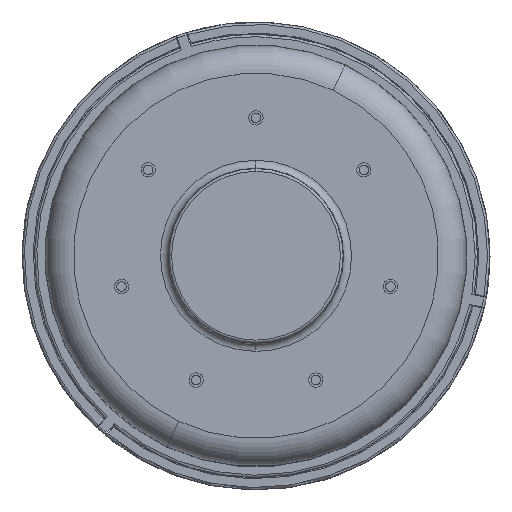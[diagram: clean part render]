
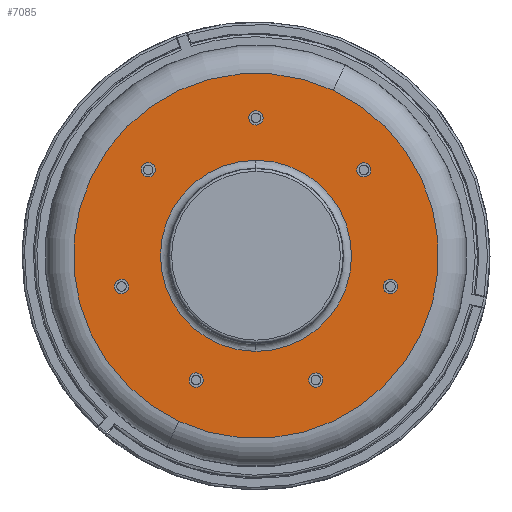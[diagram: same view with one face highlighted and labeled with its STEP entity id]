
A CAD part, top view. The second image highlights one B-rep face of the part: STEP entity #7085.
In plain terms, the highlighted planar face has unit normal (0, 0, 1).
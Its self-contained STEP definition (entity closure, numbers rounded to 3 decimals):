
#115=CARTESIAN_POINT('',(0.,0.,7.));
#116=DIRECTION('',(0.,0.,-1.));
#117=DIRECTION('',(0.423,0.906,0.));
#118=AXIS2_PLACEMENT_3D('',#115,#116,#117);
#124=CARTESIAN_POINT('',(0.,0.,7.));
#125=DIRECTION('',(0.,0.,-1.));
#126=DIRECTION('',(-0.423,-0.906,0.));
#127=AXIS2_PLACEMENT_3D('',#124,#125,#126);
#132=CARTESIAN_POINT('',(0.,0.,7.));
#133=DIRECTION('',(0.,0.,1.));
#134=DIRECTION('',(0.,1.,0.));
#135=AXIS2_PLACEMENT_3D('',#132,#133,#134);
#140=CARTESIAN_POINT('',(0.,0.,7.));
#141=DIRECTION('',(0.,0.,1.));
#142=DIRECTION('',(-0.015,-1.,0.));
#143=AXIS2_PLACEMENT_3D('',#140,#141,#142);
#148=CARTESIAN_POINT('',(0.,0.,7.));
#149=DIRECTION('',(0.,0.,1.));
#150=DIRECTION('',(0.,-1.,0.));
#151=AXIS2_PLACEMENT_3D('',#148,#149,#150);
#156=CARTESIAN_POINT('',(0.,0.,7.));
#157=DIRECTION('',(0.,0.,1.));
#158=DIRECTION('',(0.015,1.,0.));
#159=AXIS2_PLACEMENT_3D('',#156,#157,#158);
#164=CARTESIAN_POINT('',(16.866,-3.85,7.));
#165=DIRECTION('',(0.,0.,1.));
#166=DIRECTION('',(-1.,0.,0.));
#167=AXIS2_PLACEMENT_3D('',#164,#165,#166);
#172=CARTESIAN_POINT('',(16.866,-3.85,7.));
#173=DIRECTION('',(0.,0.,1.));
#174=DIRECTION('',(1.,0.,0.));
#175=AXIS2_PLACEMENT_3D('',#172,#173,#174);
#180=CARTESIAN_POINT('',(7.505,-15.587,7.));
#181=DIRECTION('',(0.,0.,1.));
#182=DIRECTION('',(-0.623,0.782,0.));
#183=AXIS2_PLACEMENT_3D('',#180,#181,#182);
#188=CARTESIAN_POINT('',(7.505,-15.587,7.));
#189=DIRECTION('',(0.,0.,1.));
#190=DIRECTION('',(0.623,-0.782,0.));
#191=AXIS2_PLACEMENT_3D('',#188,#189,#190);
#196=CARTESIAN_POINT('',(-7.507,-15.586,7.));
#197=DIRECTION('',(0.,0.,1.));
#198=DIRECTION('',(0.223,0.975,0.));
#199=AXIS2_PLACEMENT_3D('',#196,#197,#198);
#204=CARTESIAN_POINT('',(-7.507,-15.586,7.));
#205=DIRECTION('',(0.,0.,1.));
#206=DIRECTION('',(-0.223,-0.975,0.));
#207=AXIS2_PLACEMENT_3D('',#204,#205,#206);
#212=CARTESIAN_POINT('',(-16.866,-3.849,7.));
#213=DIRECTION('',(0.,0.,1.));
#214=DIRECTION('',(0.901,0.434,0.));
#215=AXIS2_PLACEMENT_3D('',#212,#213,#214);
#220=CARTESIAN_POINT('',(-16.866,-3.849,7.));
#221=DIRECTION('',(0.,0.,1.));
#222=DIRECTION('',(-0.901,-0.434,0.));
#223=AXIS2_PLACEMENT_3D('',#220,#221,#222);
#228=CARTESIAN_POINT('',(-13.525,10.787,7.));
#229=DIRECTION('',(0.,0.,1.));
#230=DIRECTION('',(0.901,-0.434,0.));
#231=AXIS2_PLACEMENT_3D('',#228,#229,#230);
#236=CARTESIAN_POINT('',(-13.525,10.787,7.));
#237=DIRECTION('',(0.,0.,1.));
#238=DIRECTION('',(-0.901,0.434,0.));
#239=AXIS2_PLACEMENT_3D('',#236,#237,#238);
#244=CARTESIAN_POINT('',(0.001,17.3,7.));
#245=DIRECTION('',(0.,0.,1.));
#246=DIRECTION('',(0.223,-0.975,0.));
#247=AXIS2_PLACEMENT_3D('',#244,#245,#246);
#252=CARTESIAN_POINT('',(0.001,17.3,7.));
#253=DIRECTION('',(0.,0.,1.));
#254=DIRECTION('',(-0.223,0.975,0.));
#255=AXIS2_PLACEMENT_3D('',#252,#253,#254);
#260=CARTESIAN_POINT('',(13.526,10.786,7.));
#261=DIRECTION('',(0.,0.,1.));
#262=DIRECTION('',(-0.623,-0.782,0.));
#263=AXIS2_PLACEMENT_3D('',#260,#261,#262);
#268=CARTESIAN_POINT('',(13.526,10.786,7.));
#269=DIRECTION('',(0.,0.,1.));
#270=DIRECTION('',(0.623,0.782,0.));
#271=AXIS2_PLACEMENT_3D('',#268,#269,#270);
#6170=CARTESIAN_POINT('',(9.678,20.755,7.));
#6171=CARTESIAN_POINT('',(-9.678,-20.755,7.));
#6172=VERTEX_POINT('',#6170);
#6173=VERTEX_POINT('',#6171);
#6174=CARTESIAN_POINT('',(0.,11.983,7.));
#6175=CARTESIAN_POINT('',(-0.185,-11.981,7.));
#6176=VERTEX_POINT('',#6174);
#6177=VERTEX_POINT('',#6175);
#6178=CARTESIAN_POINT('',(0.,-11.983,7.));
#6179=VERTEX_POINT('',#6178);
#6180=CARTESIAN_POINT('',(0.185,11.981,7.));
#6181=VERTEX_POINT('',#6180);
#6182=CARTESIAN_POINT('',(15.969,-3.85,7.));
#6183=CARTESIAN_POINT('',(17.763,-3.85,7.));
#6184=VERTEX_POINT('',#6182);
#6185=VERTEX_POINT('',#6183);
#6186=CARTESIAN_POINT('',(6.946,-14.886,7.));
#6187=CARTESIAN_POINT('',(8.065,-16.288,7.));
#6188=VERTEX_POINT('',#6186);
#6189=VERTEX_POINT('',#6187);
#6190=CARTESIAN_POINT('',(-7.307,-14.712,7.));
#6191=CARTESIAN_POINT('',(-7.707,-16.461,7.));
#6192=VERTEX_POINT('',#6190);
#6193=VERTEX_POINT('',#6191);
#6194=CARTESIAN_POINT('',(-16.058,-3.46,7.));
#6195=CARTESIAN_POINT('',(-17.675,-4.238,7.));
#6196=VERTEX_POINT('',#6194);
#6197=VERTEX_POINT('',#6195);
#6198=CARTESIAN_POINT('',(-12.717,10.398,7.));
#6199=CARTESIAN_POINT('',(-14.333,11.176,7.));
#6200=VERTEX_POINT('',#6198);
#6201=VERTEX_POINT('',#6199);
#6202=CARTESIAN_POINT('',(0.2,16.426,7.));
#6203=CARTESIAN_POINT('',(-0.199,18.174,7.));
#6204=VERTEX_POINT('',#6202);
#6205=VERTEX_POINT('',#6203);
#6206=CARTESIAN_POINT('',(12.967,10.084,7.));
#6207=CARTESIAN_POINT('',(14.085,11.487,7.));
#6208=VERTEX_POINT('',#6206);
#6209=VERTEX_POINT('',#6207);
#7022=CARTESIAN_POINT('',(0.,0.,7.));
#7023=DIRECTION('',(0.,0.,-1.));
#7024=DIRECTION('',(-0.423,-0.906,0.));
#7025=AXIS2_PLACEMENT_3D('',#7022,#7023,#7024);
#7026=PLANE('',#7025);
#7028=ORIENTED_EDGE('',*,*,#7027,.T.);
#7030=ORIENTED_EDGE('',*,*,#7029,.T.);
#7031=EDGE_LOOP('',(#7028,#7030));
#7032=FACE_OUTER_BOUND('',#7031,.F.);
#7034=ORIENTED_EDGE('',*,*,#7033,.T.);
#7036=ORIENTED_EDGE('',*,*,#7035,.T.);
#7038=ORIENTED_EDGE('',*,*,#7037,.T.);
#7040=ORIENTED_EDGE('',*,*,#7039,.T.);
#7041=EDGE_LOOP('',(#7034,#7036,#7038,#7040));
#7042=FACE_BOUND('',#7041,.F.);
#7044=ORIENTED_EDGE('',*,*,#7043,.T.);
#7046=ORIENTED_EDGE('',*,*,#7045,.T.);
#7047=EDGE_LOOP('',(#7044,#7046));
#7048=FACE_BOUND('',#7047,.F.);
#7050=ORIENTED_EDGE('',*,*,#7049,.T.);
#7052=ORIENTED_EDGE('',*,*,#7051,.T.);
#7053=EDGE_LOOP('',(#7050,#7052));
#7054=FACE_BOUND('',#7053,.F.);
#7056=ORIENTED_EDGE('',*,*,#7055,.T.);
#7058=ORIENTED_EDGE('',*,*,#7057,.T.);
#7059=EDGE_LOOP('',(#7056,#7058));
#7060=FACE_BOUND('',#7059,.F.);
#7062=ORIENTED_EDGE('',*,*,#7061,.T.);
#7064=ORIENTED_EDGE('',*,*,#7063,.T.);
#7065=EDGE_LOOP('',(#7062,#7064));
#7066=FACE_BOUND('',#7065,.F.);
#7068=ORIENTED_EDGE('',*,*,#7067,.T.);
#7070=ORIENTED_EDGE('',*,*,#7069,.T.);
#7071=EDGE_LOOP('',(#7068,#7070));
#7072=FACE_BOUND('',#7071,.F.);
#7074=ORIENTED_EDGE('',*,*,#7073,.T.);
#7076=ORIENTED_EDGE('',*,*,#7075,.T.);
#7077=EDGE_LOOP('',(#7074,#7076));
#7078=FACE_BOUND('',#7077,.F.);
#7080=ORIENTED_EDGE('',*,*,#7079,.T.);
#7082=ORIENTED_EDGE('',*,*,#7081,.T.);
#7083=EDGE_LOOP('',(#7080,#7082));
#7084=FACE_BOUND('',#7083,.F.);
#7085=ADVANCED_FACE('',(#7032,#7042,#7048,#7054,#7060,#7066,#7072,#7078,#7084),
#7026,.F.);
#119=CIRCLE('',#118,22.9);
#128=CIRCLE('',#127,22.9);
#136=CIRCLE('',#135,11.983);
#144=CIRCLE('',#143,11.983);
#152=CIRCLE('',#151,11.983);
#160=CIRCLE('',#159,11.983);
#168=CIRCLE('',#167,0.897);
#176=CIRCLE('',#175,0.897);
#184=CIRCLE('',#183,0.897);
#192=CIRCLE('',#191,0.897);
#200=CIRCLE('',#199,0.897);
#208=CIRCLE('',#207,0.897);
#216=CIRCLE('',#215,0.897);
#224=CIRCLE('',#223,0.897);
#232=CIRCLE('',#231,0.897);
#240=CIRCLE('',#239,0.897);
#248=CIRCLE('',#247,0.897);
#256=CIRCLE('',#255,0.897);
#264=CIRCLE('',#263,0.897);
#272=CIRCLE('',#271,0.897);
#7027=EDGE_CURVE('',#6172,#6173,#119,.T.);
#7029=EDGE_CURVE('',#6173,#6172,#128,.T.);
#7033=EDGE_CURVE('',#6176,#6177,#136,.T.);
#7035=EDGE_CURVE('',#6177,#6179,#144,.T.);
#7037=EDGE_CURVE('',#6179,#6181,#152,.T.);
#7039=EDGE_CURVE('',#6181,#6176,#160,.T.);
#7043=EDGE_CURVE('',#6184,#6185,#168,.T.);
#7045=EDGE_CURVE('',#6185,#6184,#176,.T.);
#7049=EDGE_CURVE('',#6188,#6189,#184,.T.);
#7051=EDGE_CURVE('',#6189,#6188,#192,.T.);
#7055=EDGE_CURVE('',#6192,#6193,#200,.T.);
#7057=EDGE_CURVE('',#6193,#6192,#208,.T.);
#7061=EDGE_CURVE('',#6196,#6197,#216,.T.);
#7063=EDGE_CURVE('',#6197,#6196,#224,.T.);
#7067=EDGE_CURVE('',#6200,#6201,#232,.T.);
#7069=EDGE_CURVE('',#6201,#6200,#240,.T.);
#7073=EDGE_CURVE('',#6204,#6205,#248,.T.);
#7075=EDGE_CURVE('',#6205,#6204,#256,.T.);
#7079=EDGE_CURVE('',#6208,#6209,#264,.T.);
#7081=EDGE_CURVE('',#6209,#6208,#272,.T.);
